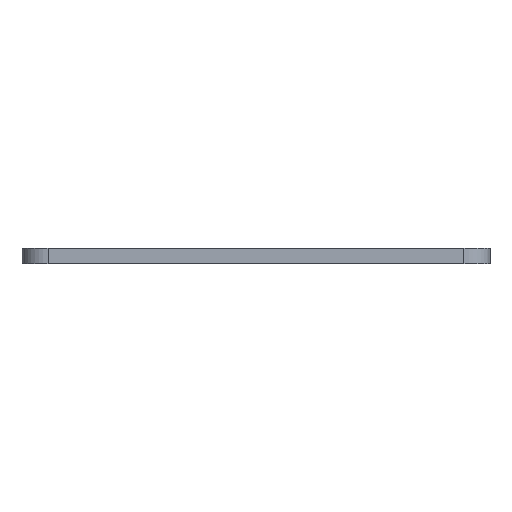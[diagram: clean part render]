
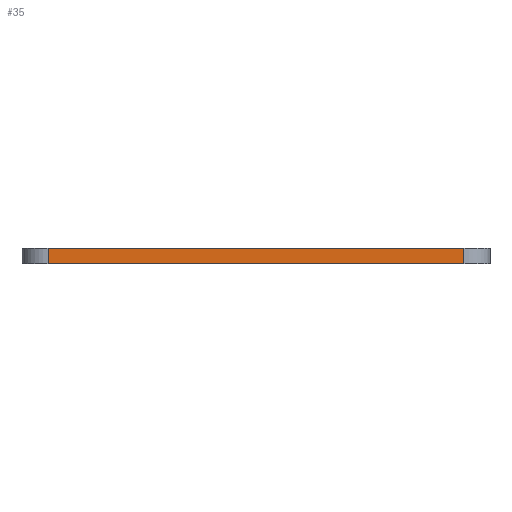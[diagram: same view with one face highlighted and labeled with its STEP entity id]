
A CAD part, left-side view. The second image highlights one B-rep face of the part: STEP entity #35.
In plain terms, the highlighted planar face has unit normal (-1, 0, 0).
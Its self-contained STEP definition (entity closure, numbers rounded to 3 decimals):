
#35 = ADVANCED_FACE('',(#36),#50,.T.);
#36 = FACE_BOUND('',#37,.T.);
#37 = EDGE_LOOP('',(#38,#73,#101,#129));
#38 = ORIENTED_EDGE('',*,*,#39,.T.);
#39 = EDGE_CURVE('',#40,#42,#44,.T.);
#40 = VERTEX_POINT('',#41);
#41 = CARTESIAN_POINT('',(-75.5,-40.,0.));
#42 = VERTEX_POINT('',#43);
#43 = CARTESIAN_POINT('',(-75.5,-40.,2.995));
#44 = SURFACE_CURVE('',#45,(#49,#61),.PCURVE_S1.);
#45 = LINE('',#46,#47);
#46 = CARTESIAN_POINT('',(-75.5,-40.,0.));
#47 = VECTOR('',#48,1.);
#48 = DIRECTION('',(0.,0.,1.));
#49 = PCURVE('',#50,#55);
#50 = PLANE('',#51);
#51 = AXIS2_PLACEMENT_3D('',#52,#53,#54);
#52 = CARTESIAN_POINT('',(-75.5,-40.,0.));
#53 = DIRECTION('',(-1.,0.,0.));
#54 = DIRECTION('',(0.,1.,0.));
#55 = DEFINITIONAL_REPRESENTATION('',(#56),#60);
#56 = LINE('',#57,#58);
#57 = CARTESIAN_POINT('',(0.,0.));
#58 = VECTOR('',#59,1.);
#59 = DIRECTION('',(0.,-1.));
#60 = ( GEOMETRIC_REPRESENTATION_CONTEXT(2) 
PARAMETRIC_REPRESENTATION_CONTEXT() REPRESENTATION_CONTEXT('2D SPACE',''
  ) );
#61 = PCURVE('',#62,#67);
#62 = CYLINDRICAL_SURFACE('',#63,5.);
#63 = AXIS2_PLACEMENT_3D('',#64,#65,#66);
#64 = CARTESIAN_POINT('',(-70.5,-40.,0.));
#65 = DIRECTION('',(0.,0.,-1.));
#66 = DIRECTION('',(-1.,0.,0.));
#67 = DEFINITIONAL_REPRESENTATION('',(#68),#72);
#68 = LINE('',#69,#70);
#69 = CARTESIAN_POINT('',(6.283,0.));
#70 = VECTOR('',#71,1.);
#71 = DIRECTION('',(0.,-1.));
#72 = ( GEOMETRIC_REPRESENTATION_CONTEXT(2) 
PARAMETRIC_REPRESENTATION_CONTEXT() REPRESENTATION_CONTEXT('2D SPACE',''
  ) );
#73 = ORIENTED_EDGE('',*,*,#74,.T.);
#74 = EDGE_CURVE('',#42,#75,#77,.T.);
#75 = VERTEX_POINT('',#76);
#76 = CARTESIAN_POINT('',(-75.5,40.,2.995));
#77 = SURFACE_CURVE('',#78,(#82,#89),.PCURVE_S1.);
#78 = LINE('',#79,#80);
#79 = CARTESIAN_POINT('',(-75.5,0.,2.995));
#80 = VECTOR('',#81,1.);
#81 = DIRECTION('',(0.,1.,0.));
#82 = PCURVE('',#50,#83);
#83 = DEFINITIONAL_REPRESENTATION('',(#84),#88);
#84 = LINE('',#85,#86);
#85 = CARTESIAN_POINT('',(40.,-2.995));
#86 = VECTOR('',#87,1.);
#87 = DIRECTION('',(1.,0.));
#88 = ( GEOMETRIC_REPRESENTATION_CONTEXT(2) 
PARAMETRIC_REPRESENTATION_CONTEXT() REPRESENTATION_CONTEXT('2D SPACE',''
  ) );
#89 = PCURVE('',#90,#95);
#90 = PLANE('',#91);
#91 = AXIS2_PLACEMENT_3D('',#92,#93,#94);
#92 = CARTESIAN_POINT('',(0.,0.,2.995));
#93 = DIRECTION('',(0.,0.,1.));
#94 = DIRECTION('',(1.,0.,0.));
#95 = DEFINITIONAL_REPRESENTATION('',(#96),#100);
#96 = LINE('',#97,#98);
#97 = CARTESIAN_POINT('',(-75.5,0.));
#98 = VECTOR('',#99,1.);
#99 = DIRECTION('',(0.,1.));
#100 = ( GEOMETRIC_REPRESENTATION_CONTEXT(2) 
PARAMETRIC_REPRESENTATION_CONTEXT() REPRESENTATION_CONTEXT('2D SPACE',''
  ) );
#101 = ORIENTED_EDGE('',*,*,#102,.F.);
#102 = EDGE_CURVE('',#103,#75,#105,.T.);
#103 = VERTEX_POINT('',#104);
#104 = CARTESIAN_POINT('',(-75.5,40.,0.));
#105 = SURFACE_CURVE('',#106,(#110,#117),.PCURVE_S1.);
#106 = LINE('',#107,#108);
#107 = CARTESIAN_POINT('',(-75.5,40.,0.));
#108 = VECTOR('',#109,1.);
#109 = DIRECTION('',(0.,0.,1.));
#110 = PCURVE('',#50,#111);
#111 = DEFINITIONAL_REPRESENTATION('',(#112),#116);
#112 = LINE('',#113,#114);
#113 = CARTESIAN_POINT('',(80.,0.));
#114 = VECTOR('',#115,1.);
#115 = DIRECTION('',(0.,-1.));
#116 = ( GEOMETRIC_REPRESENTATION_CONTEXT(2) 
PARAMETRIC_REPRESENTATION_CONTEXT() REPRESENTATION_CONTEXT('2D SPACE',''
  ) );
#117 = PCURVE('',#118,#123);
#118 = CYLINDRICAL_SURFACE('',#119,5.);
#119 = AXIS2_PLACEMENT_3D('',#120,#121,#122);
#120 = CARTESIAN_POINT('',(-70.5,40.,0.));
#121 = DIRECTION('',(0.,0.,-1.));
#122 = DIRECTION('',(-1.,0.,0.));
#123 = DEFINITIONAL_REPRESENTATION('',(#124),#128);
#124 = LINE('',#125,#126);
#125 = CARTESIAN_POINT('',(0.,0.));
#126 = VECTOR('',#127,1.);
#127 = DIRECTION('',(0.,-1.));
#128 = ( GEOMETRIC_REPRESENTATION_CONTEXT(2) 
PARAMETRIC_REPRESENTATION_CONTEXT() REPRESENTATION_CONTEXT('2D SPACE',''
  ) );
#129 = ORIENTED_EDGE('',*,*,#130,.F.);
#130 = EDGE_CURVE('',#40,#103,#131,.T.);
#131 = SURFACE_CURVE('',#132,(#136,#143),.PCURVE_S1.);
#132 = LINE('',#133,#134);
#133 = CARTESIAN_POINT('',(-75.5,0.,0.));
#134 = VECTOR('',#135,1.);
#135 = DIRECTION('',(0.,1.,0.));
#136 = PCURVE('',#50,#137);
#137 = DEFINITIONAL_REPRESENTATION('',(#138),#142);
#138 = LINE('',#139,#140);
#139 = CARTESIAN_POINT('',(40.,0.));
#140 = VECTOR('',#141,1.);
#141 = DIRECTION('',(1.,0.));
#142 = ( GEOMETRIC_REPRESENTATION_CONTEXT(2) 
PARAMETRIC_REPRESENTATION_CONTEXT() REPRESENTATION_CONTEXT('2D SPACE',''
  ) );
#143 = PCURVE('',#144,#149);
#144 = PLANE('',#145);
#145 = AXIS2_PLACEMENT_3D('',#146,#147,#148);
#146 = CARTESIAN_POINT('',(0.,0.,0.));
#147 = DIRECTION('',(0.,0.,1.));
#148 = DIRECTION('',(1.,0.,0.));
#149 = DEFINITIONAL_REPRESENTATION('',(#150),#154);
#150 = LINE('',#151,#152);
#151 = CARTESIAN_POINT('',(-75.5,0.));
#152 = VECTOR('',#153,1.);
#153 = DIRECTION('',(0.,1.));
#154 = ( GEOMETRIC_REPRESENTATION_CONTEXT(2) 
PARAMETRIC_REPRESENTATION_CONTEXT() REPRESENTATION_CONTEXT('2D SPACE',''
  ) );
